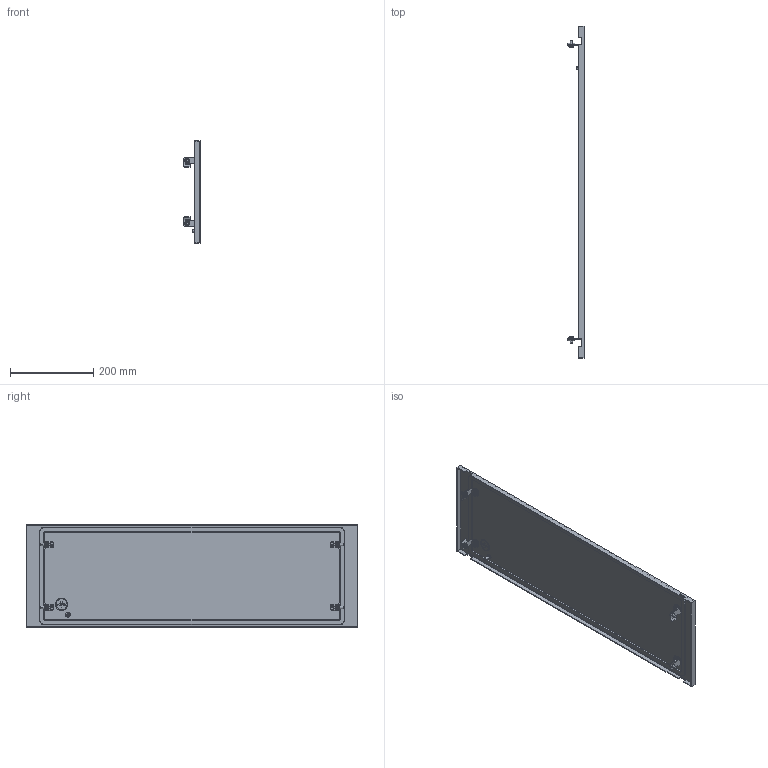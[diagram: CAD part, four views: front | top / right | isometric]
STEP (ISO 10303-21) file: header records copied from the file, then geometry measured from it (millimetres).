
FILE_DESCRIPTION (( 'STEP AP214' ), '1' );
FILE_NAME ('FO-00-PWSB-025-080 Ôàëüø-ïàíåëü âíåøíÿÿ ãëóõàÿ 250õ800 ìì.STEP', '2025-08-25T08:38:34', ( '' ), ( '' ), 'SwSTEP 2.0', 'SolidWorks 2023', '' );
FILE_SCHEMA (( 'AUTOMOTIVE_DESIGN' ));
Length unit declared in the file: millimetre
Products named in the file (1): FO-00-PWSB-025-080 Фальш-панель внешняя глухая 250х800 мм
Bounding box: 38.5 x 795 x 246 mm (x, y, z)
Volume: 511669.6 mm3; surface area: 461362.8 mm2
Topology: 1 solids, 10 shells, 846 faces, 2093 edges, 1287 vertices
Faces by surface type: plane 530, cylinder 202, cone 90, torus 24
Entity records: 25296 total; most frequent: CARTESIAN_POINT 4873, DIRECTION 4361, ORIENTED_EDGE 4182, EDGE_CURVE 2091, AXIS2_PLACEMENT_3D 1487, LINE 1387, VECTOR 1387, VERTEX_POINT 1287
